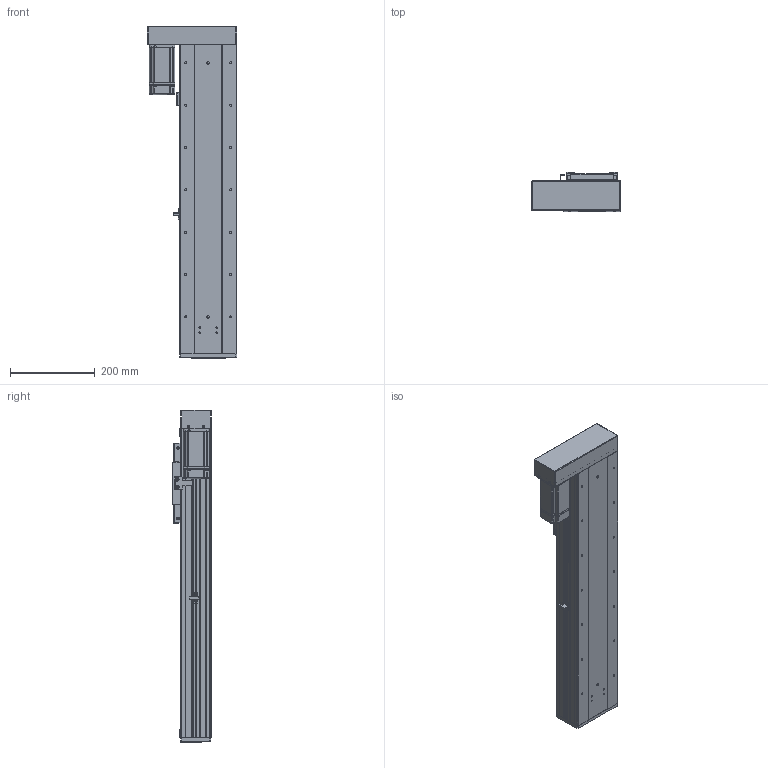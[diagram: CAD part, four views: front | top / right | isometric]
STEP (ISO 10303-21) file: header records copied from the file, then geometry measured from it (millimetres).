
FILE_DESCRIPTION (( 'STEP AP203' ), '1' );
FILE_NAME ('RY140F-L2020-300-LK.SLDASM_450.step', '2021-03-02T08:37:05', ( '盈信电脑' ), ( '东莞市道滘镇水果街19号' ), 'SwSTEP 2.0', 'SolidWorks 2012', '' );
FILE_SCHEMA (( 'CONFIG_CONTROL_DESIGN' ));
Products named in the file (19): RY140F-L2020-300-LK.SLDASM_450; RY140F-酘衵殏萇儂欶(400W); 侐源滅袉蝶; RY140F-左右折电机安装板(400W M5); RY140F-詩湍揤え; RY140F-转折折电机座（7001）; 侂狟400W侜督萇儂; RY140F-672覜茼んえ; 覜茼ん672; 15; RY140F-直连型材铝滑块(16丝杆); RY100F-詩湍揤踡謫; RY140F-后盖板(铝件）; RY140F-直连型材铝滑块连接座; RY140F-300-LK蛌殏詩湍_450; RY140F-滅鳥奻裔; RY140F-詩湍幗謫粣; RY140F-300-LK倰第菁釱_450; RY140F-300-LK倰第奻裔啣_450
Assembly tree (23 placements, depth 3):
  RY140F-L2020-300-LK.SLDASM_450
    RY140F-300-LK倰第菁釱_450
    RY140F-300-LK倰第奻裔啣_450  x2
    RY140F-300-LK蛌殏詩湍_450
    RY140F-直连型材铝滑块连接座
    RY140F-滅鳥奻裔
    RY140F-詩湍幗謫粣
    RY100F-詩湍揤踡謫
    RY140F-直连型材铝滑块(16丝杆)
    RY140F-后盖板(铝件）
    侂狟400W侜督萇儂
      15
    覜茼ん672
    RY140F-672覜茼んえ
    RY140F-詩湍揤え  x2
    侐源滅袉蝶  x4
    RY140F-转折折电机座（7001）
    RY140F-左右折电机安装板(400W M5)
    RY140F-酘衵殏萇儂欶(400W)
Bounding box: 211 x 91 x 784 mm (x, y, z)
Volume: 3353528.8 mm3; surface area: 1188663.7 mm2
Topology: 22 solids, 22 shells, 2001 faces, 5461 edges, 3472 vertices
Faces by surface type: cylinder 968, plane 789, cone 214, bspline 26, torus 4
Entity records: 63263 total; most frequent: CARTESIAN_POINT 13425, DIRECTION 10106, ORIENTED_EDGE 9834, EDGE_CURVE 4917, AXIS2_PLACEMENT_3D 3617, VERTEX_POINT 3212, LINE 2872, VECTOR 2872
